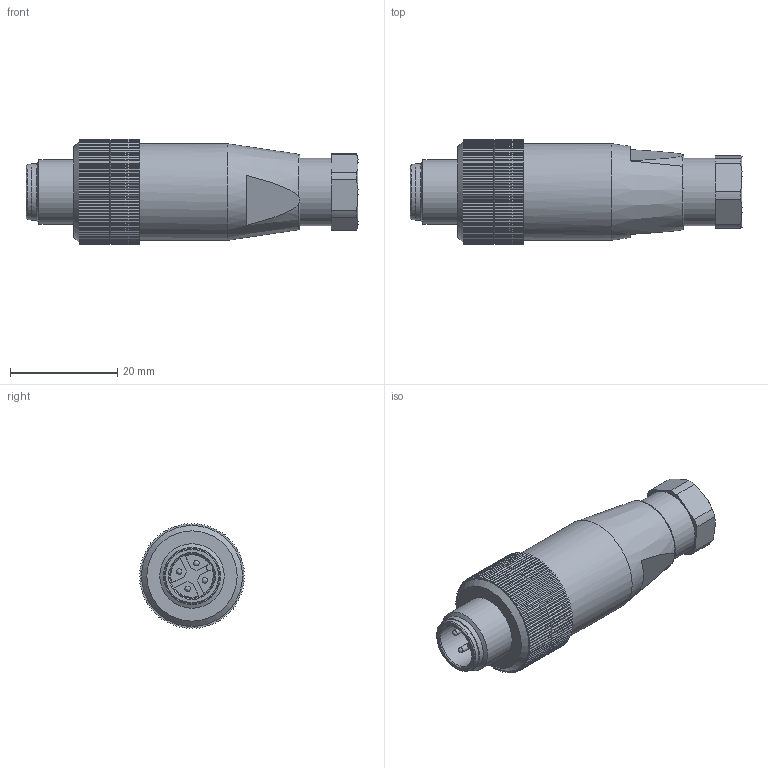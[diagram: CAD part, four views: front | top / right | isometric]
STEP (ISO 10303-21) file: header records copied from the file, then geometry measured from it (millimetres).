
FILE_DESCRIPTION (( 'STEP AP203' ), '1' );
FILE_NAME ('BSK_8141.step', '2020-02-06T20:39:01', ( '' ), ( '' ), 'SwSTEP 2.0', 'SolidWorks 2017', '' );
FILE_SCHEMA (( 'CONFIG_CONTROL_DESIGN' ));
Length unit declared in the file: millimetre
Products named in the file (1): BSK_8141
Bounding box: 61.8 x 19.6 x 19.6 mm (x, y, z)
Volume: 12320.4 mm3; surface area: 4218.1 mm2
Topology: 1 solids, 1 shells, 683 faces, 2014 edges, 1339 vertices
Faces by surface type: plane 537, cylinder 123, cone 17, bspline 6
Full cylindrical faces by diameter (mm): 1 x4, 6.5 x1, 8.3 x1, 10.3 x1, 10.6 x1, 12 x1, 12.5 x1, 18 x2
Entity records: 22964 total; most frequent: CARTESIAN_POINT 5083, ORIENTED_EDGE 3944, DIRECTION 3376, EDGE_CURVE 1972, VECTOR 1466, LINE 1466, VERTEX_POINT 1326, AXIS2_PLACEMENT_3D 955
